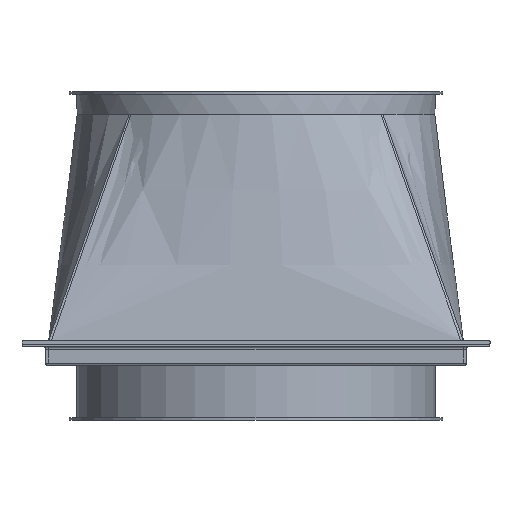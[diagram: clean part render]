
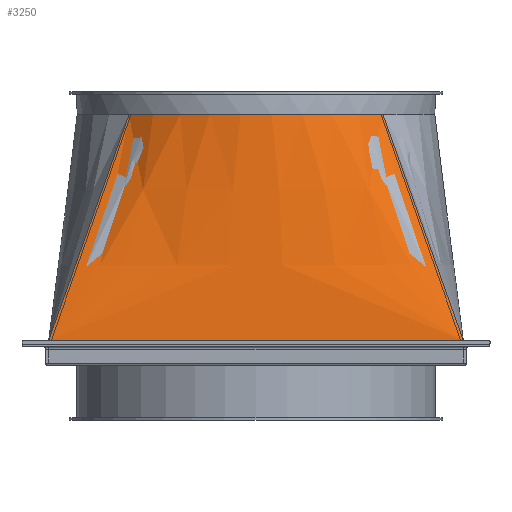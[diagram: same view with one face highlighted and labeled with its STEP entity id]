
A CAD part, left-side view. The second image highlights one B-rep face of the part: STEP entity #3250.
In plain terms, the highlighted free-form (B-spline) face has degree [3, 3] with [10, 4] control points.
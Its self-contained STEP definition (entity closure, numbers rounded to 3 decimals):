
#2414=CARTESIAN_POINT('',(0.0,0.0,0.0));
#2415=VERTEX_POINT('',#2414);
#2424=CARTESIAN_POINT('',(0.,350.0,0.0));
#2425=VERTEX_POINT('',#2424);
#2426=CARTESIAN_POINT('',(0.,350.0,0.0));
#2427=DIRECTION('',(0.0,-1.0,0.0));
#2428=VECTOR('',#2427,350.0);
#2429=LINE('',#2426,#2428);
#2430=EDGE_CURVE('',#2425,#2415,#2429,.T.);
#3170=CARTESIAN_POINT('',(-67.873,67.873,-191.0));
#3171=VERTEX_POINT('',#3170);
#3179=CARTESIAN_POINT('',(0.0,0.0,0.0));
#3180=CARTESIAN_POINT('',(-22.624,22.624,-63.667));
#3181=CARTESIAN_POINT('',(-45.249,45.249,-127.333));
#3182=CARTESIAN_POINT('',(-67.873,67.873,-191.0));
#3183=QUASI_UNIFORM_CURVE('',3,(#3179,#3180,#3181,#3182),.UNSPECIFIED.,.F.,.U.);
#3184=EDGE_CURVE('',#2415,#3171,#3183,.T.);
#3189=CARTESIAN_POINT('',(0.0,0.0,0.0));
#3190=CARTESIAN_POINT('',(0.,16.667,0.0));
#3191=CARTESIAN_POINT('',(0.,50.,0.0));
#3192=CARTESIAN_POINT('',(0.,100.,0.0));
#3193=CARTESIAN_POINT('',(0.,150.,0.0));
#3194=CARTESIAN_POINT('',(0.,200.,0.0));
#3195=CARTESIAN_POINT('',(0.,250.,0.0));
#3196=CARTESIAN_POINT('',(0.,300.,0.0));
#3197=CARTESIAN_POINT('',(0.,333.333,0.0));
#3198=CARTESIAN_POINT('',(0.,350.0,0.0));
#3199=CARTESIAN_POINT('',(-22.624,22.624,-63.667));
#3200=CARTESIAN_POINT('',(-19.953,36.406,-63.667));
#3201=CARTESIAN_POINT('',(-15.213,64.573,-63.667));
#3202=CARTESIAN_POINT('',(-10.265,108.18,-63.667));
#3203=CARTESIAN_POINT('',(-7.728,152.632,-63.667));
#3204=CARTESIAN_POINT('',(-7.728,197.368,-63.667));
#3205=CARTESIAN_POINT('',(-10.265,241.82,-63.667));
#3206=CARTESIAN_POINT('',(-15.213,285.427,-63.667));
#3207=CARTESIAN_POINT('',(-19.953,313.594,-63.667));
#3208=CARTESIAN_POINT('',(-22.624,327.376,-63.667));
#3209=CARTESIAN_POINT('',(-45.249,45.249,-127.333));
#3210=CARTESIAN_POINT('',(-39.907,56.147,-127.333));
#3211=CARTESIAN_POINT('',(-30.427,79.145,-127.333));
#3212=CARTESIAN_POINT('',(-20.529,116.36,-127.333));
#3213=CARTESIAN_POINT('',(-15.457,155.263,-127.333));
#3214=CARTESIAN_POINT('',(-15.454,194.737,-127.333));
#3215=CARTESIAN_POINT('',(-20.532,233.639,-127.333));
#3216=CARTESIAN_POINT('',(-30.426,270.855,-127.333));
#3217=CARTESIAN_POINT('',(-39.907,293.853,-127.333));
#3218=CARTESIAN_POINT('',(-45.249,304.751,-127.333));
#3219=CARTESIAN_POINT('',(-67.873,67.873,-191.0));
#3220=CARTESIAN_POINT('',(-59.86,75.886,-191.0));
#3221=CARTESIAN_POINT('',(-45.641,93.718,-191.));
#3222=CARTESIAN_POINT('',(-30.795,124.541,-191.0));
#3223=CARTESIAN_POINT('',(-23.185,157.894,-191.));
#3224=CARTESIAN_POINT('',(-23.182,192.106,-191.));
#3225=CARTESIAN_POINT('',(-30.797,225.459,-191.0));
#3226=CARTESIAN_POINT('',(-45.639,256.283,-191.));
#3227=CARTESIAN_POINT('',(-59.86,274.114,-191.0));
#3228=CARTESIAN_POINT('',(-67.873,282.127,-191.0));
#3229=B_SPLINE_SURFACE_WITH_KNOTS('',3,3,((#3189,#3199,#3209,#3219),(#3190,#3200,#3210,#3220),(#3191,#3201,#3211,#3221),(#3192,#3202,#3212,#3222),(#3193,#3203,#3213,#3223),(#3194,#3204,#3214,#3224),(#3195,#3205,#3215,#3225),(#3196,#3206,#3216,#3226),(#3197,#3207,#3217,#3227),(#3198,#3208,#3218,#3228)),.UNSPECIFIED.,.F.,.F.,.U.,(4,1,1,1,1,1,1,4),(4,4),(0.0,0.143,0.286,0.429,0.571,0.714,0.857,1.0),(0.0,1.0),.UNSPECIFIED.);
#3230=ORIENTED_EDGE('',*,*,#2430,.T.);
#3231=ORIENTED_EDGE('',*,*,#3184,.T.);
#3232=CARTESIAN_POINT('',(-67.873,282.127,-191.0));
#3233=VERTEX_POINT('',#3232);
#3234=CARTESIAN_POINT('',(-175.,175.,-191.0));
#3235=DIRECTION('',(0.0,0.0,-1.0));
#3236=DIRECTION('',(1.0,0.0,0.0));
#3237=AXIS2_PLACEMENT_3D('',#3234,#3235,#3236);
#3238=CIRCLE('',#3237,151.5);
#3239=EDGE_CURVE('',#3233,#3171,#3238,.T.);
#3240=ORIENTED_EDGE('',*,*,#3239,.F.);
#3241=CARTESIAN_POINT('',(0.,350.0,0.0));
#3242=CARTESIAN_POINT('',(-22.624,327.376,-63.667));
#3243=CARTESIAN_POINT('',(-45.249,304.751,-127.333));
#3244=CARTESIAN_POINT('',(-67.873,282.127,-191.0));
#3245=QUASI_UNIFORM_CURVE('',3,(#3241,#3242,#3243,#3244),.UNSPECIFIED.,.F.,.U.);
#3246=EDGE_CURVE('',#2425,#3233,#3245,.T.);
#3247=ORIENTED_EDGE('',*,*,#3246,.F.);
#3248=EDGE_LOOP('',(#3230,#3231,#3240,#3247));
#3249=FACE_OUTER_BOUND('',#3248,.T.);
#3250=ADVANCED_FACE('',(#3249),#3229,.F.);
